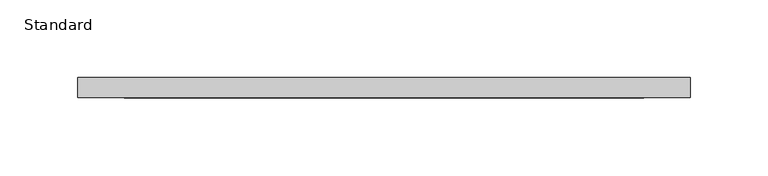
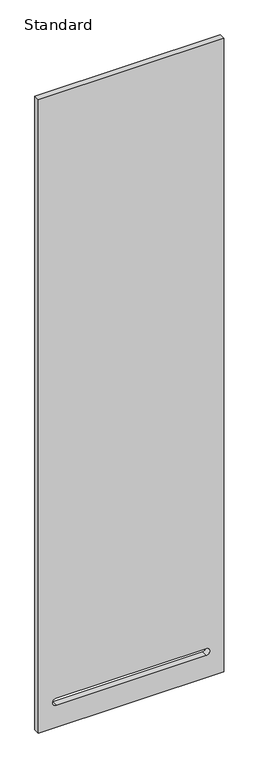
"""IFC4 building model written with IfcOpenShell, lengths in millimetres: furniture geometry, X_Locker-Duracube-Door : Standard."""

from ifc_helpers import new_model, si_unit, point, frame, frame_2d, origin, place, context, project, spatial, polyline, circle_curve, trimmed, segment, composite_curve, outline, extrude, source, transform, mapped, element, save


def standard_74556009(model_context):
    return source(origin(), model_context, "Body", "SweptSolid", [
        extrude(outline(polyline([(1427.0, 241.7003264), (1427.0, -152.2996736), (3.0, -152.2996736), (3.0, 241.7003264), (1427.0, 241.7003264)]), holes=[composite_curve([segment(trimmed(circle_curve(frame_2d((60.5, 204.2003264)), 7.5), [point((68.0, 204.2003264))], [point((53.0, 204.2003264))], True, "CARTESIAN"), True, "CONTINUOUS"), segment(polyline([(53.0, 204.2003264), (53.0, -114.7996736)]), True, "CONTINUOUS"), segment(trimmed(circle_curve(frame_2d((60.5, -114.7996736)), 7.5), [point((53.0, -114.7996736))], [point((68.0, -114.7996736))], True, "CARTESIAN"), True, "CONTINUOUS"), segment(polyline([(68.0, -114.7996736), (68.0, 204.2003264)]), True, "CONTINUOUS")], self_intersect=False)]), frame((0.0, -13.0, 0.0), z_axis=(0.0, 1.0, 0.0), x_axis=(0.0, 0.0, 1.0)), (0.0, 0.0, 1.0), 13.0),
    ])


if __name__ == "__main__":
    model = new_model("IFC4")
    model_context = context("Model", 3, world=origin())
    ifc_project = project(units=[si_unit("LENGTHUNIT", "METRE", prefix="MILLI")], contexts=[model_context])
    site = spatial("IfcSite", under=ifc_project)
    building = spatial("IfcBuilding", under=site)
    placement = place(None, origin())
    standard_shape = standard_74556009(model_context)
    element("IfcFurniture", 1, ObjectType="X_Locker-Duracube-Door : Standard", at=placement, inside=building, context=model_context, shape_type="MappedRepresentation", body=[
        mapped(standard_shape, transform((0.0, 0.0, 0.0), x_axis=(1.0, 0.0, 0.0), y_axis=(0.0, 1.0, 0.0), z_axis=(0.0, 0.0, 1.0))),
    ])
    save(model, "model.ifc")
